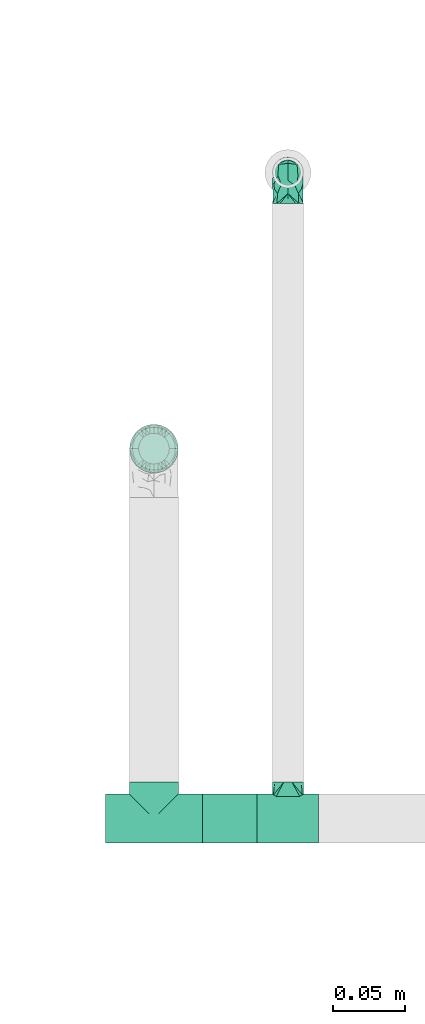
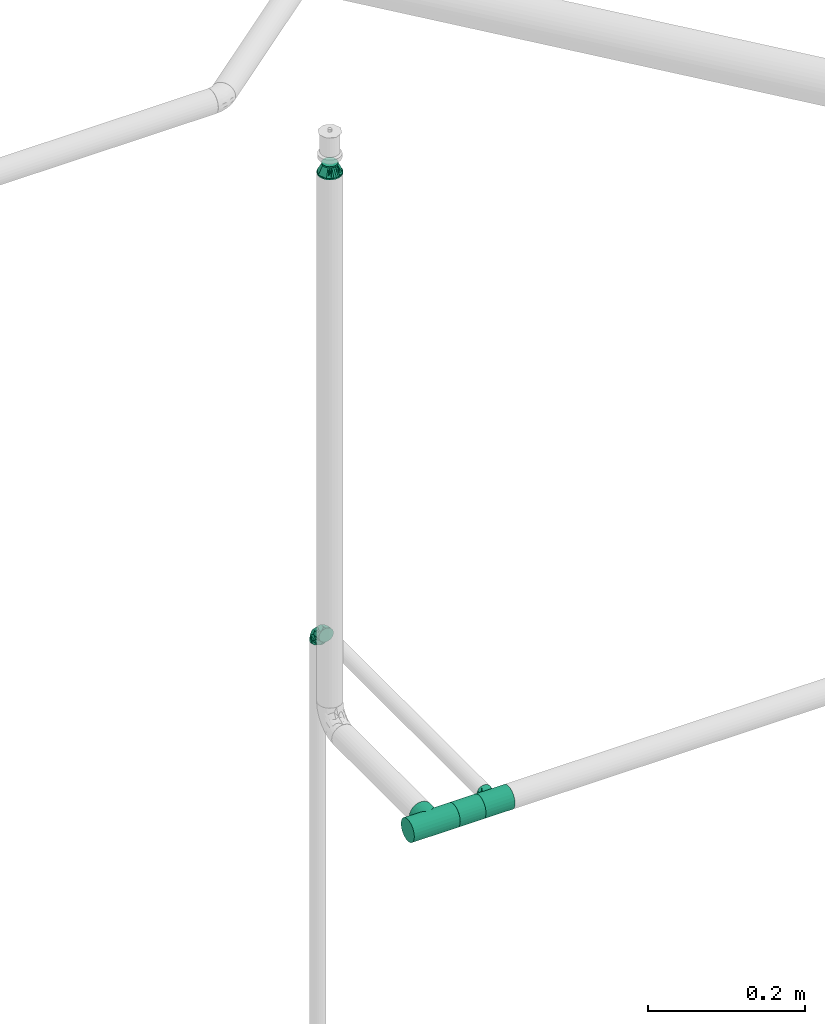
# One storey, part 68 of 94: 4 flow fittings, 1 flow segment.
"""IFC2X3 building model written with IfcOpenShell, lengths in millimetres."""

from ifc_helpers import new_model, entity, si_unit, converted_unit, derived_unit, direction, frame, origin_with_axes, origin_2d_with_axis, place, context, subcontext, project, spatial, hollow_circle, extrude, open_shell, surface_model, source, transform, mapped, type_object, element, save


model = new_model("IFC2X3")

# Units and contexts
model_context = context("Model", 3, precision=0.01, world=frame((0.0, 4.29681676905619e-09, 0.0)), true_north=direction((4.01073788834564e-13, 1.0)))
plan_context = context("Plan", 3, precision=0.01, world=frame((0.0, 4.29681676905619e-09, 0.0)), true_north=direction((4.01073788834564e-13, 1.0)))
body_context = subcontext(model_context, "Body", "Model", "MODEL_VIEW")
ifc_project = project(units=[converted_unit("PLANEANGLEUNIT", "DEGREE", entity("IfcPositiveLengthMeasure", 0.0174532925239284), si_unit("PLANEANGLEUNIT", "RADIAN"), dimensions=[0, 0, 0, 0, 0, 0, 0]), si_unit("AREAUNIT", "SQUARE_METRE"), si_unit("LENGTHUNIT", "METRE", prefix="MILLI"), si_unit("MASSUNIT", "GRAM", prefix="KILO"), si_unit("POWERUNIT", "WATT"), si_unit("PRESSUREUNIT", "PASCAL", prefix="KILO"), si_unit("FORCEUNIT", "NEWTON", prefix="KILO"), si_unit("ELECTRICVOLTAGEUNIT", "VOLT"), si_unit("ELECTRICCURRENTUNIT", "AMPERE"), si_unit("THERMODYNAMICTEMPERATUREUNIT", "DEGREE_CELSIUS"), si_unit("TIMEUNIT", "SECOND"), si_unit("VOLUMEUNIT", "CUBIC_METRE"), derived_unit("LINEARVELOCITYUNIT", [(si_unit("LENGTHUNIT", "METRE"), 1), (si_unit("TIMEUNIT", "SECOND"), -1)]), derived_unit("VOLUMETRICFLOWRATEUNIT", [(si_unit("VOLUMEUNIT", "CUBIC_METRE"), 1), (si_unit("TIMEUNIT", "SECOND"), -1)]), derived_unit("THERMALTRANSMITTANCEUNIT", [(si_unit("POWERUNIT", "WATT"), 1), (si_unit("THERMODYNAMICTEMPERATUREUNIT", "KELVIN"), -1), (si_unit("AREAUNIT", "SQUARE_METRE"), -1)]), derived_unit("SOUNDPRESSUREUNIT", [(si_unit("PRESSUREUNIT", "PASCAL"), 1)])], contexts=[model_context, plan_context])

# Site, building, storey
site_placement = place(None, frame((0.0, -4.29681676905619e-09, 0.0), z_axis=(0.0, 0.0, 1.0), x_axis=(1.0, 0.0, 0.0)))
site = spatial("IfcSite", under=ifc_project, at=site_placement, CompositionType="ELEMENT")
building_placement = place(site_placement, frame((0.0, 4.29681676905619e-09, 0.0), z_axis=(0.0, 0.0, 1.0), x_axis=(1.0, 0.0, 0.0)))
building = spatial("IfcBuilding", under=site, at=building_placement, Name="mc-building", CompositionType="ELEMENT")
storey_placement = place(building_placement, frame((0.0, 0.0, 210900.0), z_axis=(0.0, 0.0, 1.0), x_axis=(1.0, 0.0, 0.0)))
storey = spatial("IfcBuildingStorey", under=building, at=storey_placement, Name="Nivå F", CompositionType="ELEMENT", Elevation=210900.0)

# Flow fittings
pipe_fitting_type_1 = type_object("IfcPipeFittingType", Name="magi_pipe_fe_reducer_centric_short_NOR", PredefinedType="TRANSITION")
shared_shape_1 = source(origin_with_axes(), body_context, "Body", "SurfaceModel", [
    surface_model("IfcShellBasedSurfaceModel", [(14.4, 5.35, -9.26647), (14.4, 0.0, -10.7), (14.4, 2.76936, -10.33541), (14.4, 10.33541, -2.76936), (14.4, 7.56604, -7.56604), (14.4, -10.33541, -2.76936), (14.4, 9.26647, -5.35), (14.4, 0.0, 10.7), (14.4, -5.35, -9.26647), (14.4, -2.76936, -10.33541), (14.4, -7.56604, -7.56604), (14.4, -9.26647, -5.35), (14.4, 10.7, 0.0), (14.4, 10.33541, 2.76936), (14.4, 9.26647, 5.35), (14.4, 7.56604, 7.56604), (14.4, 2.76936, 10.33541), (14.4, 5.35, 9.26647), (14.4, -10.33541, 2.76936), (14.4, -7.56604, 7.56604), (14.4, -9.26647, 5.35), (14.4, -10.7, 0.0), (14.4, -2.76936, 10.33541), (14.4, -5.35, 9.26647), (12.4, 2.76936, 10.33541), (12.4, -10.33541, -2.76936), (12.4, 0.0, 10.7), (12.4, 5.35, 9.26647), (12.4, 7.56604, 7.56604), (12.4, 9.26647, 5.35), (12.4, 10.33541, 2.76936), (12.4, -10.33541, 2.76936), (12.4, -2.76936, 10.33541), (12.4, -7.56604, 7.56604), (12.4, -5.35, 9.26647), (12.4, -9.26647, 5.35), (12.4, -10.7, 0.0), (12.4, 10.33541, -2.76936), (12.4, 5.35, -9.26647), (12.4, 9.26647, -5.35), (12.4, 7.56604, -7.56604), (12.4, 2.76936, -10.33541), (12.4, -9.26647, -5.35), (12.4, -5.35, -9.26647), (12.4, -7.56604, -7.56604), (12.4, 0.0, -10.7), (12.4, -2.76936, -10.33541), (12.4, 10.7, 0.0), (-2.0, 11.9501, 11.9501), (-2.0, 0.0, 16.9), (-2.0, 4.37404, 16.32415), (-2.0, 8.45, 14.63583), (-2.0, 14.63583, 8.45), (-2.0, 16.32415, 4.37404), (-2.0, -16.32415, 4.37404), (-2.0, -8.45, 14.63583), (-2.0, -14.63583, 8.45), (-2.0, -11.9501, 11.9501), (-2.0, -4.37404, 16.32415), (-2.0, -16.32415, -4.37404), (-2.0, -16.9, 0.0), (-2.0, -8.45, -14.63583), (-2.0, 16.32415, -4.37404), (-2.0, 11.9501, -11.9501), (-2.0, 14.63583, -8.45), (-2.0, 8.45, -14.63583), (-2.0, 4.37404, -16.32415), (-2.0, 0.0, -16.9), (-2.0, -11.9501, -11.9501), (-2.0, -14.63583, -8.45), (-2.0, -4.37404, -16.32415), (-2.0, 16.9, 0.0), (0.0, 4.37404, -16.32415), (0.0, 8.45, -14.63583), (0.0, 11.9501, -11.9501), (0.0, 0.0, -16.9), (0.0, 16.32415, -4.37404), (0.0, 16.32415, 4.37404), (0.0, 14.63583, -8.45), (0.0, -8.45, -14.63583), (0.0, -4.37404, -16.32415), (0.0, -11.9501, -11.9501), (0.0, -16.32415, -4.37404), (0.0, -14.63583, -8.45), (0.0, -16.32415, 4.37404), (0.0, 16.9, 0.0), (0.0, 14.63583, 8.45), (0.0, 11.9501, 11.9501), (0.0, 4.37404, 16.32415), (0.0, 8.45, 14.63583), (0.0, 0.0, 16.9), (0.0, -14.63583, 8.45), (0.0, -16.9, 0.0), (0.0, -8.45, 14.63583), (0.0, -11.9501, 11.9501), (0.0, -4.37404, 16.32415), (12.4, 9.3625, -2.31662), (0.0, 14.42505, -5.97505), (0.0, 15.66253, -2.98753), (12.4, -6.6875, -6.94985), (0.0, -13.18758, -8.96258), (0.0, 2.98753, -15.66253), (12.4, 0.0, -9.26647), (12.4, 6.6875, -6.94985), (0.0, 8.96258, -13.18758), (12.4, -9.3625, -2.31662), (0.0, -15.66253, -2.98753), (0.0, -14.42505, -5.97505), (0.0, 5.97505, -14.42505), (0.0, -2.98753, -15.66253), (0.0, -8.96258, -13.18758), (0.0, 13.18758, -8.96258), (12.4, 8.025, -4.63324), (12.4, -2.675, -9.26647), (12.4, 2.675, -9.26647), (0.0, -5.97505, -14.42505), (12.4, -8.025, -4.63324), (12.4, -9.3625, 2.31662), (0.0, -14.42505, 5.97505), (0.0, -15.66253, 2.98753), (12.4, 6.6875, 6.94985), (0.0, 13.18758, 8.96258), (0.0, -2.98753, 15.66253), (12.4, 0.0, 9.26647), (12.4, -6.6875, 6.94985), (0.0, -8.96258, 13.18758), (12.4, 9.3625, 2.31662), (0.0, 15.66253, 2.98753), (0.0, 14.42505, 5.97505), (0.0, -5.97505, 14.42505), (0.0, 2.98753, 15.66253), (0.0, 8.96258, 13.18758), (0.0, -13.18758, 8.96258), (12.4, -8.025, 4.63324), (12.4, 2.675, 9.26647), (12.4, -2.675, 9.26647), (0.0, 5.97505, 14.42505), (12.4, 8.025, 4.63324)], [open_shell([[[0, 1, 2]], [[3, 0, 4]], [[5, 0, 3]], [[3, 4, 6]], [[7, 5, 3]], [[1, 8, 9]], [[1, 0, 8]], [[10, 5, 11]], [[5, 10, 8]], [[0, 5, 8]], [[3, 12, 13]], [[13, 14, 15]], [[13, 15, 16]], [[7, 3, 16]], [[16, 15, 17]], [[7, 18, 5]], [[18, 19, 20]], [[21, 5, 18]], [[19, 22, 23]], [[22, 19, 18]], [[7, 22, 18]], [[13, 16, 3]], [[24, 25, 26]], [[27, 25, 24]], [[28, 29, 30]], [[28, 25, 27]], [[31, 26, 25]], [[32, 33, 34]], [[33, 32, 31]], [[33, 31, 35]], [[32, 26, 31]], [[31, 25, 36]], [[30, 37, 28]], [[25, 28, 37]], [[38, 37, 39]], [[37, 38, 25]], [[38, 39, 40]], [[41, 25, 38]], [[42, 43, 44]], [[43, 42, 25]], [[43, 45, 46]], [[43, 25, 41]], [[41, 45, 43]], [[37, 30, 47]], [[25, 5, 36]], [[42, 11, 25]], [[8, 44, 43]], [[42, 44, 10]], [[9, 43, 46]], [[25, 11, 5]], [[5, 21, 36]], [[9, 8, 43]], [[10, 44, 8]], [[10, 11, 42]], [[1, 9, 46]], [[46, 45, 1]], [[41, 2, 45]], [[38, 0, 41]], [[6, 40, 39]], [[38, 40, 4]], [[3, 39, 37]], [[38, 4, 0]], [[0, 2, 41]], [[12, 3, 37]], [[6, 39, 3]], [[6, 4, 40]], [[47, 12, 37]], [[45, 2, 1]], [[30, 13, 47]], [[29, 14, 30]], [[17, 28, 27]], [[29, 28, 15]], [[16, 27, 24]], [[30, 14, 13]], [[13, 12, 47]], [[16, 17, 27]], [[15, 28, 17]], [[15, 14, 29]], [[7, 16, 24]], [[24, 26, 7]], [[32, 22, 26]], [[34, 23, 32]], [[20, 33, 35]], [[34, 33, 19]], [[18, 35, 31]], [[34, 19, 23]], [[23, 22, 32]], [[21, 18, 31]], [[20, 35, 18]], [[20, 19, 33]], [[36, 21, 31]], [[26, 22, 7]], [[48, 49, 50]], [[48, 50, 51]], [[48, 52, 53]], [[48, 53, 49]], [[49, 53, 54]], [[55, 56, 57]], [[55, 58, 49]], [[56, 55, 49]], [[49, 54, 56]], [[54, 59, 60]], [[54, 53, 61]], [[53, 62, 63]], [[63, 62, 64]], [[63, 65, 66]], [[61, 53, 63]], [[67, 63, 66]], [[59, 68, 69]], [[68, 59, 61]], [[61, 67, 70]], [[59, 54, 61]], [[63, 67, 61]], [[53, 71, 62]], [[72, 73, 74]], [[75, 72, 74]], [[74, 76, 77]], [[76, 74, 78]], [[74, 77, 79]], [[75, 79, 80]], [[75, 74, 79]], [[81, 82, 83]], [[82, 81, 79]], [[79, 84, 82]], [[77, 76, 85]], [[77, 86, 87]], [[77, 87, 88]], [[88, 84, 79]], [[88, 87, 89]], [[84, 88, 90]], [[90, 91, 84]], [[92, 82, 84]], [[91, 93, 94]], [[91, 90, 93]], [[93, 90, 95]], [[79, 77, 88]], [[59, 82, 60]], [[69, 83, 59]], [[79, 68, 61]], [[69, 68, 81]], [[80, 61, 70]], [[59, 83, 82]], [[82, 92, 60]], [[80, 79, 61]], [[81, 68, 79]], [[81, 83, 69]], [[75, 80, 70]], [[70, 67, 75]], [[66, 72, 67]], [[65, 73, 66]], [[78, 63, 64]], [[65, 63, 74]], [[76, 64, 62]], [[65, 74, 73]], [[73, 72, 66]], [[85, 76, 62]], [[78, 64, 76]], [[78, 74, 63]], [[71, 85, 62]], [[67, 72, 75]], [[53, 77, 71]], [[52, 86, 53]], [[89, 48, 51]], [[52, 48, 87]], [[88, 51, 50]], [[53, 86, 77]], [[77, 85, 71]], [[88, 89, 51]], [[87, 48, 89]], [[87, 86, 52]], [[90, 88, 50]], [[50, 49, 90]], [[58, 95, 49]], [[55, 93, 58]], [[91, 57, 56]], [[55, 57, 94]], [[84, 56, 54]], [[55, 94, 93]], [[93, 95, 58]], [[92, 84, 54]], [[91, 56, 84]], [[91, 94, 57]], [[60, 92, 54]], [[49, 95, 90]], [[27, 34, 47]], [[47, 34, 43]], [[43, 38, 47]], [[43, 34, 36]], [[90, 87, 94]], [[92, 94, 87]], [[87, 74, 92]], [[75, 92, 74]], [[81, 92, 75]], [[74, 87, 85]], [[96, 97, 98]], [[81, 99, 100]], [[101, 102, 75]], [[98, 85, 47]], [[74, 103, 104]], [[104, 103, 38]], [[105, 106, 107]], [[38, 108, 104]], [[102, 109, 75]], [[110, 99, 81]], [[47, 96, 98]], [[103, 111, 112]], [[109, 102, 113]], [[36, 92, 106]], [[102, 101, 114]], [[110, 115, 43]], [[96, 112, 97]], [[107, 116, 105]], [[36, 106, 105]], [[113, 115, 109]], [[43, 115, 113]], [[116, 107, 100]], [[108, 38, 114]], [[111, 103, 74]], [[111, 97, 112]], [[99, 110, 43]], [[116, 100, 99]], [[101, 108, 114]], [[117, 118, 119]], [[87, 120, 121]], [[122, 123, 90]], [[119, 92, 36]], [[94, 124, 125]], [[125, 124, 34]], [[126, 127, 128]], [[34, 129, 125]], [[123, 130, 90]], [[131, 120, 87]], [[36, 117, 119]], [[124, 132, 133]], [[130, 123, 134]], [[47, 85, 127]], [[123, 122, 135]], [[131, 136, 27]], [[117, 133, 118]], [[128, 137, 126]], [[47, 127, 126]], [[134, 136, 130]], [[27, 136, 134]], [[137, 128, 121]], [[129, 34, 135]], [[132, 124, 94]], [[132, 118, 133]], [[120, 131, 27]], [[137, 121, 120]], [[122, 129, 135]]])]),
])
flow_fitting_1_placement = place(storey_placement, frame((727222.70412, 439239.73983, 4357.64799999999), z_axis=(-0.000893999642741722, -0.99999960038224, 0.0), x_axis=(0.0, 0.0, 1.0)))
element("IfcFlowFitting", 1, at=flow_fitting_1_placement, inside=storey, type_object=pipe_fitting_type_1, Name="magi_pipe_fe_reducer_centric_short_NOR", context=body_context, shape_type="MappedRepresentation", body=[
    mapped(shared_shape_1, transform((0.0, 0.0, 0.0), scale=1.0)),
])
pipe_fitting_type_2 = type_object("IfcPipeFittingType", Name="magi_pipe_fe_tee_centric_90_NOR", PredefinedType="JUNCTION")
shared_shape_2 = source(origin_with_axes(), body_context, "Body", "SurfaceModel", [
    surface_model("IfcShellBasedSurfaceModel", [(-33.8, 4.37404, -16.32415), (-33.8, 0.0, -16.9), (-33.8, 16.32415, -4.37404), (-33.8, 8.45, -14.63583), (-33.8, 11.9501, -11.9501), (-33.8, 14.63583, -8.45), (-33.8, -16.9, 0.0), (-33.8, -11.9501, -11.9501), (-33.8, -14.63583, -8.45), (-33.8, -8.45, -14.63583), (-33.8, -4.37404, -16.32415), (-33.8, -16.32415, -4.37404), (-33.8, 14.63583, 8.45), (-33.8, 16.32415, 4.37404), (-33.8, -8.45, 14.63583), (-33.8, 8.45, 14.63583), (-33.8, 11.9501, 11.9501), (-33.8, 4.37404, 16.32415), (-33.8, 0.0, 16.9), (-33.8, -11.9501, 11.9501), (-33.8, -14.63583, 8.45), (-33.8, -16.32415, 4.37404), (-33.8, -4.37404, 16.32415), (-33.8, 16.9, 0.0), (33.8, 4.37404, -16.32415), (33.8, -16.9, 0.0), (33.8, 0.0, -16.9), (33.8, 14.63583, -8.45), (33.8, 8.45, -14.63583), (33.8, 16.32415, -4.37404), (33.8, 11.9501, -11.9501), (33.8, -16.32415, 4.37404), (33.8, -8.45, -14.63583), (33.8, -4.37404, -16.32415), (33.8, -11.9501, -11.9501), (33.8, -14.63583, -8.45), (33.8, -16.32415, -4.37404), (33.8, 16.32415, 4.37404), (33.8, 8.45, 14.63583), (33.8, 14.63583, 8.45), (33.8, 11.9501, 11.9501), (33.8, -8.45, 14.63583), (33.8, 4.37404, 16.32415), (33.8, -14.63583, 8.45), (33.8, -11.9501, 11.9501), (33.8, 0.0, 16.9), (33.8, -4.37404, 16.32415), (33.8, 16.9, 0.0), (16.28698, -16.28698, 4.51047), (16.9, -16.9, 0.0), (14.62704, -14.62704, 8.4652), (9.47213, -9.47213, 13.99602), (12.26343, -12.26343, 11.62834), (-16.9, -16.9, 0.0), (-16.28698, -16.28698, 4.51047), (-14.62704, -14.62704, 8.4652), (-12.26343, -12.26343, 11.62834), (-9.47213, -9.47213, 13.99602), (-6.42894, -6.42894, 15.62942), (6.42894, -6.42894, 15.62942), (3.24522, -3.24522, 16.58549), (0.0, 0.0, 16.9), (-3.24522, -3.24522, 16.58549), (3.24522, -3.24522, -16.58549), (0.0, 0.0, -16.9), (-3.24522, -3.24522, -16.58549), (-6.42894, -6.42894, -15.62942), (6.42894, -6.42894, -15.62942), (9.47213, -9.47213, -13.99602), (12.26343, -12.26343, -11.62834), (14.62704, -14.62704, -8.4652), (16.28698, -16.28698, -4.51047), (-9.47213, -9.47213, -13.99602), (-12.26343, -12.26343, -11.62834), (-16.28698, -16.28698, -4.51047), (-14.62704, -14.62704, -8.4652), (4.37404, -25.35, -16.32415), (-16.9, -25.35, 0.0), (0.0, -25.35, -16.9), (14.63583, -25.35, -8.45), (8.45, -25.35, -14.63583), (16.32415, -25.35, -4.37404), (11.9501, -25.35, -11.9501), (-11.9501, -25.35, -11.9501), (-8.45, -25.35, -14.63583), (-4.37404, -25.35, -16.32415), (-14.63583, -25.35, -8.45), (-16.32415, -25.35, -4.37404), (16.9, -25.35, 0.0), (8.45, -25.35, 14.63583), (16.32415, -25.35, 4.37404), (14.63583, -25.35, 8.45), (-8.45, -25.35, 14.63583), (11.9501, -25.35, 11.9501), (4.37404, -25.35, 16.32415), (-16.32415, -25.35, 4.37404), (-11.9501, -25.35, 11.9501), (-14.63583, -25.35, 8.45), (0.0, -25.35, 16.9), (-4.37404, -25.35, 16.32415)], [open_shell([[[0, 1, 2]], [[3, 0, 4]], [[0, 2, 5]], [[4, 0, 5]], [[6, 2, 1]], [[7, 8, 9]], [[1, 10, 9]], [[11, 6, 8]], [[1, 9, 8]], [[1, 8, 6]], [[6, 12, 2]], [[12, 13, 2]], [[14, 12, 6]], [[12, 14, 15]], [[16, 12, 15]], [[17, 15, 18]], [[19, 14, 20]], [[21, 20, 14]], [[22, 18, 14]], [[14, 6, 21]], [[14, 18, 15]], [[23, 2, 13]], [[24, 25, 26]], [[27, 24, 28]], [[27, 29, 24]], [[27, 28, 30]], [[31, 25, 24]], [[26, 32, 33]], [[26, 34, 32]], [[35, 25, 36]], [[35, 34, 26]], [[25, 35, 26]], [[24, 29, 31]], [[29, 37, 38]], [[38, 37, 39]], [[38, 31, 29]], [[38, 39, 40]], [[41, 38, 42]], [[43, 41, 44]], [[41, 43, 31]], [[41, 45, 46]], [[41, 31, 38]], [[42, 45, 41]], [[29, 47, 37]], [[31, 43, 48]], [[25, 31, 49]], [[49, 31, 48]], [[43, 50, 48]], [[44, 41, 51]], [[50, 43, 52]], [[51, 52, 44]], [[52, 43, 44]], [[53, 54, 21]], [[53, 21, 6]], [[21, 54, 20]], [[54, 55, 20]], [[56, 57, 19]], [[19, 20, 56]], [[19, 57, 14]], [[56, 20, 55]], [[14, 57, 58]], [[51, 41, 59]], [[60, 45, 61]], [[59, 46, 60]], [[46, 59, 41]], [[60, 46, 45]], [[61, 45, 42]], [[39, 37, 13]], [[16, 38, 40]], [[12, 40, 39]], [[42, 38, 15]], [[23, 37, 47]], [[62, 61, 18]], [[62, 22, 58]], [[22, 62, 18]], [[58, 22, 14]], [[61, 17, 18]], [[42, 17, 61]], [[15, 17, 42]], [[15, 38, 16]], [[12, 16, 40]], [[13, 12, 39]], [[37, 23, 13]], [[5, 27, 30]], [[23, 47, 29]], [[30, 28, 3]], [[27, 2, 29]], [[26, 33, 63]], [[26, 64, 24]], [[64, 26, 63]], [[28, 24, 0]], [[64, 0, 24]], [[4, 30, 3]], [[2, 27, 5]], [[5, 30, 4]], [[2, 23, 29]], [[65, 66, 10]], [[1, 0, 64]], [[1, 65, 10]], [[66, 9, 10]], [[0, 3, 28]], [[1, 64, 65]], [[63, 33, 67]], [[32, 34, 68]], [[69, 68, 34]], [[35, 70, 69]], [[69, 34, 35]], [[32, 68, 67]], [[36, 25, 49]], [[36, 71, 35]], [[71, 36, 49]], [[35, 71, 70]], [[72, 9, 66]], [[72, 7, 9]], [[7, 72, 73]], [[7, 73, 8]], [[74, 53, 11]], [[75, 74, 8]], [[74, 11, 8]], [[11, 53, 6]], [[75, 8, 73]], [[32, 67, 33]], [[76, 77, 78]], [[79, 76, 80]], [[79, 81, 76]], [[79, 80, 82]], [[77, 76, 81]], [[78, 83, 84]], [[84, 85, 78]], [[86, 77, 87]], [[83, 78, 86]], [[77, 86, 78]], [[81, 88, 77]], [[89, 88, 90]], [[89, 90, 91]], [[92, 77, 89]], [[89, 91, 93]], [[92, 89, 94]], [[95, 96, 97]], [[96, 95, 92]], [[92, 98, 99]], [[95, 77, 92]], [[94, 98, 92]], [[89, 77, 88]], [[77, 95, 53]], [[54, 53, 95]], [[97, 96, 56]], [[96, 92, 57]], [[95, 97, 54]], [[58, 92, 99]], [[55, 54, 97]], [[56, 55, 97]], [[58, 57, 92]], [[98, 61, 62]], [[58, 99, 62]], [[56, 96, 57]], [[62, 99, 98]], [[94, 60, 98]], [[89, 59, 94]], [[91, 90, 48]], [[52, 93, 91]], [[93, 51, 89]], [[49, 90, 88]], [[59, 60, 94]], [[51, 59, 89]], [[49, 48, 90]], [[50, 52, 91]], [[48, 50, 91]], [[51, 93, 52]], [[98, 60, 61]], [[88, 81, 49]], [[71, 49, 81]], [[79, 82, 69]], [[82, 80, 68]], [[81, 79, 71]], [[67, 80, 76]], [[70, 71, 79]], [[69, 70, 79]], [[67, 68, 80]], [[78, 64, 63]], [[67, 76, 63]], [[69, 82, 68]], [[63, 76, 78]], [[85, 65, 78]], [[84, 66, 85]], [[86, 87, 74]], [[86, 73, 83]], [[72, 84, 83]], [[53, 87, 77]], [[66, 65, 85]], [[72, 66, 84]], [[53, 74, 87]], [[75, 73, 86]], [[74, 75, 86]], [[72, 83, 73]], [[78, 65, 64]]])]),
])
flow_fitting_2_placement = place(storey_placement, frame((727222.70412, 438982.74228, 3500.0), z_axis=(0.0, 0.0, 1.0), x_axis=(-1.0, 0.0, 0.0)))
element("IfcFlowFitting", 2, at=flow_fitting_2_placement, inside=storey, type_object=pipe_fitting_type_2, Name="magi_pipe_fe_tee_centric_90_NOR", context=body_context, shape_type="MappedRepresentation", body=[
    mapped(shared_shape_2, transform((0.0, 0.0, 0.0), scale=1.0)),
])
shared_shape_3 = source(origin_with_axes(), body_context, "Body", "SurfaceModel", [
    surface_model("IfcShellBasedSurfaceModel", [(-21.4, 0.0, -16.9), (-21.4, -16.9, 0.0), (-21.4, 4.37404, -16.32415), (-21.4, 8.45, -14.63583), (-21.4, 11.9501, -11.9501), (-21.4, 16.32415, -4.37404), (-21.4, 14.63583, -8.45), (-21.4, -16.32415, 4.37404), (-21.4, -11.9501, -11.9501), (-21.4, -14.63583, -8.45), (-21.4, -8.45, -14.63583), (-21.4, -4.37404, -16.32415), (-21.4, -16.32415, -4.37404), (-21.4, 16.32415, 4.37404), (-21.4, 16.9, 0.0), (-21.4, 8.45, 14.63583), (-21.4, 14.63583, 8.45), (-21.4, -8.45, 14.63583), (-21.4, 11.9501, 11.9501), (-21.4, 4.37404, 16.32415), (-21.4, -11.9501, 11.9501), (-21.4, -14.63583, 8.45), (-21.4, -4.37404, 16.32415), (-21.4, 0.0, 16.9), (21.4, 4.37404, -16.32415), (21.4, -16.32415, -4.37404), (21.4, 0.0, -16.9), (21.4, 14.63583, -8.45), (21.4, 8.45, -14.63583), (21.4, 8.45, 14.63583), (21.4, 11.9501, -11.9501), (21.4, -11.9501, -11.9501), (21.4, -8.45, -14.63583), (21.4, -4.37404, -16.32415), (21.4, -14.63583, -8.45), (21.4, -16.9, 0.0), (21.4, 16.32415, -4.37404), (21.4, 16.32415, 4.37404), (21.4, 14.63583, 8.45), (21.4, -8.45, 14.63583), (21.4, 11.9501, 11.9501), (21.4, 4.37404, 16.32415), (21.4, -14.63583, 8.45), (21.4, -11.9501, 11.9501), (21.4, -16.32415, 4.37404), (21.4, 0.0, 16.9), (21.4, -4.37404, 16.32415), (21.4, 16.9, 0.0), (10.02449, -16.48061, 3.7416), (10.7, -16.9, 0.0), (8.16297, -15.41927, 6.9178), (5.39457, -14.14996, 9.24059), (21.4, -15.47999, 6.41202), (1.90748, -13.21962, 10.5286), (-8.16537, -15.42055, 6.91497), (-21.4, -15.47999, 6.41202), (-10.02486, -16.48083, 3.74061), (-21.4, -16.61207, 2.18702), (-10.36243, -16.69042, 1.8703), (-10.7, -16.9, 0.0), (-5.39553, -14.15033, 9.24003), (-1.91068, -13.22009, 10.52802), (-8.16537, -15.42055, -6.91497), (-21.4, -15.47999, -6.41202), (8.16297, -15.41927, -6.9178), (21.4, -15.47999, -6.41202), (-10.36243, -16.69042, -1.8703), (5.39457, -14.14996, -9.24059), (-21.4, -16.61207, -2.18702), (-10.02486, -16.48083, -3.74061), (1.90748, -13.21962, -10.5286), (10.02449, -16.48061, -3.7416), (-1.91068, -13.22009, -10.52802), (-5.39553, -14.15033, -9.24003), (0.0, -25.35, -10.7), (2.76936, -25.35, -10.33541), (5.35, -25.35, -9.26647), (7.56604, -25.35, -7.56604), (2.76936, -25.35, 10.33541), (9.26647, -25.35, -5.35), (-7.56604, -25.35, -7.56604), (-2.76936, -25.35, -10.33541), (-5.35, -25.35, -9.26647), (-9.26647, -25.35, -5.35), (-10.7, -25.35, 0.0), (-10.33541, -25.35, -2.76936), (10.7, -25.35, 0.0), (10.33541, -25.35, -2.76936), (10.33541, -25.35, 2.76936), (9.26647, -25.35, 5.35), (7.56604, -25.35, 7.56604), (5.35, -25.35, 9.26647), (-10.33541, -25.35, 2.76936), (-7.56604, -25.35, 7.56604), (-9.26647, -25.35, 5.35), (0.0, -25.35, 10.7), (-2.76936, -25.35, 10.33541), (-5.35, -25.35, 9.26647)], [open_shell([[[0, 1, 2]], [[3, 2, 4]], [[2, 5, 6]], [[4, 2, 6]], [[2, 1, 7]], [[8, 9, 10]], [[0, 11, 10]], [[12, 1, 9]], [[10, 9, 1]], [[10, 1, 0]], [[7, 5, 2]], [[13, 14, 15]], [[16, 13, 15]], [[17, 15, 14]], [[18, 16, 15]], [[19, 15, 17]], [[20, 17, 21]], [[7, 21, 17]], [[22, 23, 17]], [[14, 7, 17]], [[17, 23, 19]], [[5, 7, 14]], [[24, 25, 26]], [[27, 24, 28]], [[25, 24, 29]], [[27, 28, 30]], [[29, 24, 27]], [[26, 31, 32]], [[32, 33, 26]], [[26, 25, 34]], [[31, 26, 34]], [[35, 25, 29]], [[27, 36, 37]], [[37, 38, 27]], [[27, 38, 29]], [[39, 35, 29]], [[29, 38, 40]], [[39, 29, 41]], [[42, 39, 43]], [[39, 42, 44]], [[39, 45, 46]], [[44, 35, 39]], [[41, 45, 39]], [[36, 47, 37]], [[35, 44, 48]], [[48, 49, 35]], [[44, 50, 48]], [[42, 43, 51]], [[50, 44, 52]], [[51, 50, 42]], [[53, 51, 43]], [[43, 20, 53]], [[42, 50, 52]], [[54, 21, 55]], [[56, 57, 58]], [[59, 58, 1]], [[56, 54, 7]], [[60, 61, 20]], [[1, 58, 57]], [[60, 21, 54]], [[21, 60, 20]], [[54, 55, 7]], [[61, 53, 20]], [[56, 7, 57]], [[43, 17, 20]], [[23, 46, 45]], [[22, 39, 46]], [[19, 45, 41]], [[38, 37, 13]], [[18, 29, 40]], [[16, 40, 38]], [[41, 29, 15]], [[14, 37, 47]], [[17, 39, 22]], [[22, 46, 23]], [[19, 23, 45]], [[41, 15, 19]], [[15, 29, 18]], [[16, 18, 40]], [[13, 16, 38]], [[37, 14, 13]], [[39, 17, 43]], [[14, 47, 36]], [[36, 27, 5]], [[30, 6, 27]], [[11, 26, 33]], [[2, 28, 24]], [[62, 12, 63]], [[26, 0, 24]], [[33, 32, 10]], [[30, 28, 3]], [[64, 34, 65]], [[6, 5, 27]], [[14, 36, 5]], [[30, 4, 6]], [[1, 66, 59]], [[3, 28, 2]], [[0, 2, 24]], [[26, 11, 0]], [[33, 10, 11]], [[4, 30, 3]], [[32, 8, 10]], [[31, 34, 67]], [[68, 69, 66]], [[67, 70, 31]], [[34, 64, 67]], [[31, 70, 8]], [[25, 35, 71]], [[71, 64, 25]], [[49, 71, 35]], [[25, 64, 65]], [[72, 73, 8]], [[9, 8, 73]], [[73, 62, 9]], [[72, 8, 70]], [[62, 69, 12]], [[69, 68, 12]], [[66, 1, 68]], [[62, 63, 9]], [[31, 8, 32]], [[74, 75, 76]], [[74, 76, 77]], [[78, 77, 79]], [[74, 77, 80]], [[77, 78, 80]], [[81, 80, 82]], [[81, 74, 80]], [[83, 84, 85]], [[84, 83, 80]], [[80, 78, 84]], [[86, 79, 87]], [[79, 88, 78]], [[78, 88, 89]], [[90, 91, 78]], [[90, 78, 89]], [[84, 78, 92]], [[92, 93, 94]], [[93, 92, 95]], [[93, 96, 97]], [[96, 93, 95]], [[92, 78, 95]], [[88, 79, 86]], [[59, 84, 92]], [[56, 94, 93]], [[92, 94, 59]], [[93, 97, 56]], [[59, 94, 56]], [[54, 56, 96]], [[61, 60, 51]], [[54, 50, 60]], [[96, 95, 54]], [[97, 96, 56]], [[78, 50, 95]], [[91, 48, 78]], [[48, 90, 89]], [[91, 90, 48]], [[49, 89, 88]], [[51, 53, 61]], [[50, 51, 60]], [[89, 49, 48]], [[48, 50, 78]], [[49, 88, 86]], [[54, 95, 50]], [[49, 86, 87]], [[71, 79, 77]], [[87, 79, 49]], [[77, 76, 71]], [[49, 79, 71]], [[64, 71, 75]], [[70, 67, 72]], [[64, 73, 67]], [[75, 74, 64]], [[76, 75, 71]], [[62, 74, 81]], [[82, 69, 81]], [[69, 80, 83]], [[82, 80, 69]], [[59, 83, 85]], [[73, 72, 67]], [[62, 73, 64]], [[83, 59, 69]], [[69, 62, 81]], [[59, 85, 84]], [[64, 74, 62]]])]),
])
flow_fitting_3_placement = place(storey_placement, frame((727315.79619, 438982.74228, 3500.0), z_axis=(0.0, 0.0, -1.0), x_axis=(1.0, 0.0, 0.0)))
element("IfcFlowFitting", 3, at=flow_fitting_3_placement, inside=storey, type_object=pipe_fitting_type_2, Name="magi_pipe_fe_tee_centric_90_NOR", context=body_context, shape_type="MappedRepresentation", body=[
    mapped(shared_shape_3, transform((0.0, 0.0, 0.0), scale=1.0)),
])
pipe_fitting_type_3 = type_object("IfcPipeFittingType", Name="magi_pipe_fe_elbow_short_001", PredefinedType="BEND")
shared_shape_4 = source(origin_with_axes(), body_context, "Body", "SurfaceModel", [
    surface_model("IfcShellBasedSurfaceModel", [(-21.4, 2.76936, -10.33541), (-21.4, 0.0, -10.7), (-21.4, 7.56604, -7.56604), (-21.4, 5.35, -9.26647), (-21.4, 10.33541, -2.76936), (-21.4, 9.26647, -5.35), (-21.4, -7.56604, 7.56604), (-21.4, -5.35, -9.26647), (-21.4, -5.35, 9.26647), (-21.4, -7.56604, -7.56604), (-21.4, -9.26647, -5.35), (-21.4, -2.76936, -10.33541), (-21.4, -10.33541, -2.76936), (-21.4, -10.7, 0.0), (-21.4, 10.7, 0.0), (-21.4, 10.33541, 2.76936), (-21.4, 9.26647, 5.35), (-21.4, 7.56604, 7.56604), (-21.4, 5.35, 9.26647), (-21.4, 2.76936, 10.33541), (-21.4, -10.33541, 2.76936), (-21.4, -9.26647, 5.35), (-21.4, -2.76936, 10.33541), (-21.4, 0.0, 10.7), (-7.56604, 21.4, -7.56604), (0.0, 21.4, -10.7), (-2.76936, 21.4, -10.33541), (-5.35, 21.4, -9.26647), (-9.26647, 21.4, -5.35), (-10.33541, 21.4, -2.76936), (10.7, 21.4, 0.0), (5.35, 21.4, -9.26647), (9.26647, 21.4, -5.35), (7.56604, 21.4, -7.56604), (2.76936, 21.4, -10.33541), (10.33541, 21.4, -2.76936), (-10.33541, 21.4, 2.76936), (5.35, 21.4, 9.26647), (-7.56604, 21.4, 7.56604), (-9.26647, 21.4, 5.35), (-5.35, 21.4, 9.26647), (-2.76936, 21.4, 10.33541), (9.26647, 21.4, 5.35), (10.33541, 21.4, 2.76936), (7.56604, 21.4, 7.56604), (0.0, 21.4, 10.7), (2.76936, 21.4, 10.33541), (-10.7, 21.4, 0.0), (-17.99408, -9.78739, 0.0), (-9.96908, -7.6371, 0.0), (-9.09404, -6.9243, 4.95785), (-14.48689, -7.04149, 7.24979), (5.63065, 8.24892, 6.28438), (2.06258, 3.09852, 6.68299), (3.46206, 2.41265, 0.0), (0.98571, 10.3211, 10.08431), (-14.58817, -8.87478, 0.0), (5.00363, 14.04705, 8.8538), (-11.43216, -3.30045, 9.33143), (7.6371, 9.96908, 0.0), (8.87478, 14.58817, 0.0), (-7.84024, 13.84213, 8.94205), (-3.62699, 16.02976, 10.31804), (-15.33449, 3.33478, 10.44017), (-7.99137, -0.64527, 9.75219), (-12.26698, 17.61698, 0.0), (-13.83396, 13.83396, 0.0), (-5.22925, -4.43288, 5.66596), (6.39942, 5.35, 0.0), (-15.15468, 10.16047, 6.44408), (-10.16467, 10.01422, 9.23503), (9.78739, 17.99408, 0.0), (-7.22951, 3.98894, 10.64848), (-2.16379, -1.00373, 6.95774), (0.52471, -0.52471, 0.0), (-2.94157, 6.97816, 10.50675), (-17.61698, 12.26698, 0.0), (-2.41265, -3.46206, 0.0), (-5.35, -6.39942, 0.0), (-8.83498, -0.07405, -10.11828), (-2.16379, -1.00373, -6.95774), (-5.8406, -4.06158, -6.57779), (-7.84024, 13.84213, -8.94205), (-15.33449, 3.33478, -10.44017), (-11.43216, -3.30045, -9.33143), (-15.15468, 10.16047, -6.44408), (-7.22951, 3.98894, -10.64848), (-10.16467, 10.01422, -9.23503), (2.06258, 3.09852, -6.68299), (-2.94157, 6.97816, -10.50675), (-14.48689, -7.04149, -7.24979), (5.00363, 14.04705, -8.8538), (-3.62699, 16.02976, -10.31804), (0.98571, 10.3211, -10.08431), (5.63065, 8.24892, -6.28438), (-9.09404, -6.9243, -4.95785)], [open_shell([[[0, 1, 2]], [[3, 0, 2]], [[4, 5, 2]], [[6, 1, 7]], [[1, 8, 2]], [[9, 10, 7]], [[1, 11, 7]], [[12, 13, 10]], [[7, 10, 13]], [[13, 6, 7]], [[4, 2, 14]], [[8, 15, 2]], [[16, 15, 17]], [[8, 18, 15]], [[17, 15, 18]], [[18, 8, 19]], [[20, 21, 13]], [[13, 21, 6]], [[22, 23, 8]], [[6, 8, 1]], [[8, 23, 19]], [[15, 14, 2]], [[24, 25, 26]], [[24, 26, 27]], [[24, 28, 29]], [[24, 29, 25]], [[25, 29, 30]], [[31, 32, 33]], [[31, 34, 25]], [[32, 30, 35]], [[30, 32, 31]], [[25, 30, 31]], [[29, 36, 30]], [[30, 36, 37]], [[38, 36, 39]], [[36, 40, 37]], [[40, 36, 38]], [[41, 37, 40]], [[30, 42, 43]], [[44, 42, 30]], [[37, 45, 46]], [[30, 37, 44]], [[41, 45, 37]], [[29, 47, 36]], [[21, 20, 48]], [[49, 50, 51]], [[52, 53, 54]], [[52, 55, 53]], [[51, 6, 56]], [[6, 21, 56]], [[41, 57, 45]], [[23, 51, 58]], [[51, 22, 8]], [[57, 59, 60]], [[61, 55, 62]], [[63, 58, 64]], [[65, 66, 61]], [[51, 23, 22]], [[23, 58, 19]], [[67, 58, 50]], [[54, 68, 52]], [[63, 17, 18]], [[20, 13, 48]], [[14, 15, 69]], [[16, 17, 63]], [[62, 40, 38]], [[19, 58, 63]], [[16, 69, 15]], [[63, 18, 19]], [[59, 52, 68]], [[60, 44, 37]], [[57, 46, 45]], [[69, 70, 66]], [[52, 59, 57]], [[39, 62, 38]], [[60, 42, 44]], [[37, 57, 60]], [[37, 46, 57]], [[6, 51, 8]], [[43, 71, 30]], [[51, 56, 49]], [[70, 69, 72]], [[73, 74, 53]], [[75, 72, 73]], [[16, 63, 69]], [[47, 65, 36]], [[42, 71, 43]], [[55, 57, 62]], [[52, 57, 55]], [[41, 40, 62]], [[60, 71, 42]], [[36, 61, 39]], [[48, 56, 21]], [[61, 62, 39]], [[62, 57, 41]], [[69, 63, 72]], [[53, 75, 73]], [[69, 66, 76]], [[67, 64, 58]], [[75, 53, 55]], [[67, 77, 73]], [[55, 61, 75]], [[70, 75, 61]], [[50, 49, 78]], [[67, 50, 78]], [[51, 50, 58]], [[77, 74, 73]], [[73, 72, 64]], [[67, 78, 77]], [[73, 64, 67]], [[63, 64, 72]], [[36, 65, 61]], [[75, 70, 72]], [[14, 69, 76]], [[66, 70, 61]], [[53, 74, 54]], [[79, 80, 81]], [[65, 29, 82]], [[3, 2, 83]], [[0, 84, 1]], [[4, 14, 85]], [[10, 48, 12]], [[83, 5, 85]], [[85, 5, 4]], [[86, 85, 87]], [[83, 86, 79]], [[83, 84, 0]], [[48, 13, 12]], [[80, 77, 81]], [[88, 80, 89]], [[10, 9, 56]], [[7, 11, 90]], [[91, 31, 60]], [[9, 7, 90]], [[90, 11, 1]], [[84, 90, 1]], [[9, 90, 56]], [[28, 92, 82]], [[5, 83, 2]], [[85, 14, 76]], [[80, 88, 74]], [[82, 66, 65]], [[93, 82, 92]], [[28, 82, 29]], [[28, 24, 92]], [[24, 27, 92]], [[71, 60, 32]], [[91, 92, 26]], [[56, 48, 10]], [[35, 30, 71]], [[27, 26, 92]], [[94, 88, 93]], [[25, 91, 26]], [[31, 91, 34]], [[83, 0, 3]], [[94, 93, 91]], [[33, 60, 31]], [[89, 93, 88]], [[34, 91, 25]], [[71, 32, 35]], [[92, 91, 93]], [[59, 91, 60]], [[86, 83, 85]], [[95, 78, 49]], [[33, 32, 60]], [[66, 87, 85]], [[94, 59, 68]], [[89, 80, 86]], [[49, 56, 90]], [[94, 54, 88]], [[59, 94, 91]], [[95, 90, 84]], [[87, 89, 86]], [[82, 93, 89]], [[81, 78, 95]], [[90, 95, 49]], [[81, 95, 84]], [[79, 81, 84]], [[82, 87, 66]], [[83, 79, 84]], [[80, 79, 86]], [[77, 80, 74]], [[77, 78, 81]], [[47, 29, 65]], [[76, 66, 85]], [[89, 87, 82]], [[54, 94, 68]], [[54, 74, 88]]])]),
])
flow_fitting_4_placement = place(storey_placement, frame((727315.79619, 439431.58279, 3500.0), z_axis=(-1.0, 0.0, 0.0), x_axis=(0.0, 1.0, 0.0)))
element("IfcFlowFitting", 4, at=flow_fitting_4_placement, inside=storey, type_object=pipe_fitting_type_3, Name="magi_pipe_fe_elbow_short_001", context=body_context, shape_type="MappedRepresentation", body=[
    mapped(shared_shape_4, transform((0.0, 0.0, 0.0), scale=1.0)),
])

# Flow segment
pipe_segment_type = type_object("IfcPipeSegmentType", Name="Stålrør normaltykke", PredefinedType="RIGIDSEGMENT")
shared_shape_5 = source(origin_with_axes(), body_context, "Body", "SweptSolid", [
    extrude(hollow_circle(Radius=16.9, WallThickness=2.0, at=origin_2d_with_axis()), frame((0.0, 0.0, 0.0), z_axis=(1.0, 0.0, 0.0), x_axis=(0.0, 1.0, 0.0)), (0.0, 0.0, 1.0), 37.9),
])
flow_segment_placement = place(storey_placement, frame((727256.50412, 438982.74228, 3500.0), z_axis=(0.0, 0.0, 1.0), x_axis=(1.0, 0.0, 0.0)))
element("IfcFlowSegment", 5, at=flow_segment_placement, inside=storey, type_object=pipe_segment_type, Name="Stålrør normaltykke", context=body_context, shape_type="MappedRepresentation", body=[
    mapped(shared_shape_5, transform((0.0, 0.0, 0.0), scale=1.0)),
])

save(model, "model.ifc")
